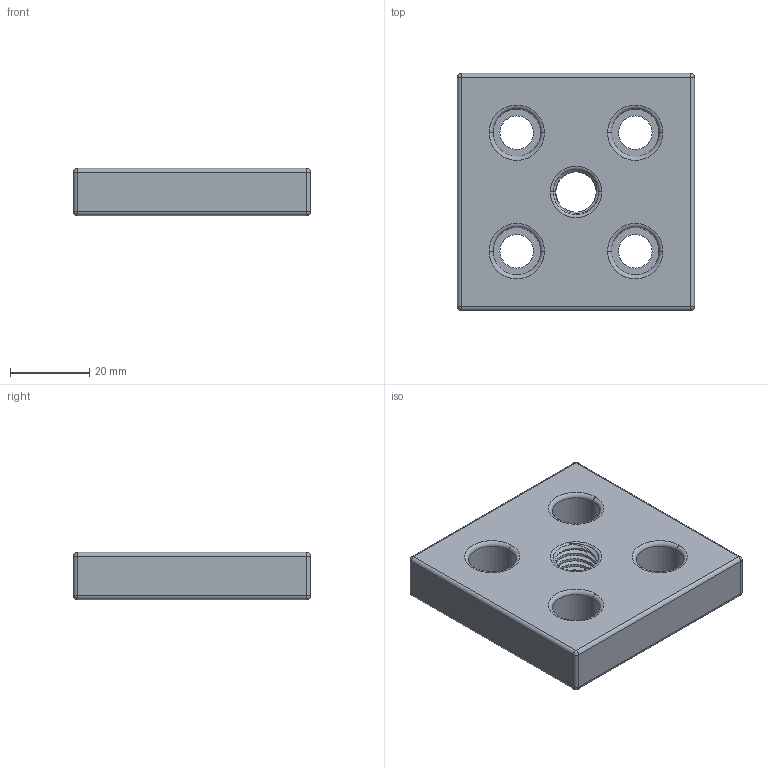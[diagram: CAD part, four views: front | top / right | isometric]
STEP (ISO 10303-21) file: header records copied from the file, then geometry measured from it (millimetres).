
FILE_DESCRIPTION (( 'STEP AP203' ), '1' );
FILE_NAME ('103-CE-SEC6060-8.STEP', '2015-07-09T08:38:44', ( '' ), ( '' ), 'SwSTEP 2.0', 'SolidWorks 2013', '' );
FILE_SCHEMA (( 'CONFIG_CONTROL_DESIGN' ));
Length unit declared in the file: millimetre
Products named in the file (1): 103-CE-SEC6060-8
Bounding box: 60 x 60 x 12 mm (x, y, z)
Volume: 37201.7 mm3; surface area: 11457.6 mm2
Topology: 1 solids, 1 shells, 76 faces, 183 edges, 105 vertices
Faces by surface type: cylinder 42, torus 10, plane 10, sphere 8, cone 4, bspline 2
Entity records: 3428 total; most frequent: CARTESIAN_POINT 1653, DIRECTION 372, ORIENTED_EDGE 350, EDGE_CURVE 175, AXIS2_PLACEMENT_3D 158, VERTEX_POINT 105, EDGE_LOOP 90, CIRCLE 83
